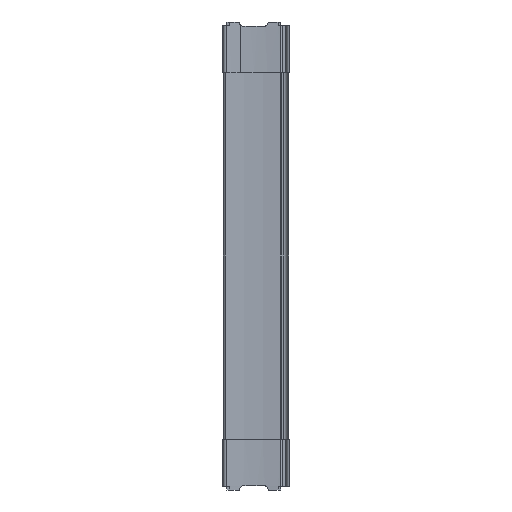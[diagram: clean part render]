
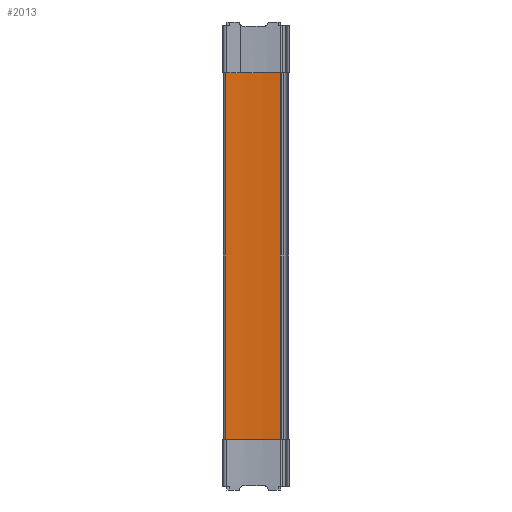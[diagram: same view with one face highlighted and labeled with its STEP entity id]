
A CAD part, left-side view. The second image highlights one B-rep face of the part: STEP entity #2013.
In plain terms, the highlighted cylindrical face has radius 250 mm (diameter 500 mm), a partial arc.
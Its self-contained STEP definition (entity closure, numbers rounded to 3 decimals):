
#373 = CYLINDRICAL_SURFACE ( 'NONE', #3863, 250. ) ;
#376 = FACE_OUTER_BOUND ( 'NONE', #752, .T. ) ;
#568 = ORIENTED_EDGE ( 'NONE', *, *, #3772, .F. ) ;
#569 = ORIENTED_EDGE ( 'NONE', *, *, #3769, .F. ) ;
#570 = ORIENTED_EDGE ( 'NONE', *, *, #3668, .F. ) ;
#571 = ORIENTED_EDGE ( 'NONE', *, *, #3834, .T. ) ;
#752 = EDGE_LOOP ( 'NONE', ( #568, #569, #570, #571 ) ) ;
#1212 = CARTESIAN_POINT ( 'NONE',  ( -255.319, 48.963, 185.3 ) ) ;
#1213 = DIRECTION ( 'NONE',  ( 0., 0., -1. ) ) ;
#1214 = DIRECTION ( 'NONE',  ( 1., 0., 0. ) ) ;
#1521 = CARTESIAN_POINT ( 'NONE',  ( -255.319, 48.963, -185.3 ) ) ;
#1522 = CARTESIAN_POINT ( 'NONE',  ( -8.643, 8.331, 191.3 ) ) ;
#1523 = DIRECTION ( 'NONE',  ( 0., 0., -1. ) ) ;
#1528 = DIRECTION ( 'NONE',  ( 0., 0., 1. ) ) ;
#1529 = DIRECTION ( 'NONE',  ( -1., 0., 0. ) ) ;
#1686 = CARTESIAN_POINT ( 'NONE',  ( -5.747, 63.571, 191.3 ) ) ;
#1694 = DIRECTION ( 'NONE',  ( 0., 0., -1. ) ) ;
#1908 = AXIS2_PLACEMENT_3D ( 'NONE', #1212, #1213, #1214 ) ;
#1944 = AXIS2_PLACEMENT_3D ( 'NONE', #1521, #1528, #1529 ) ;
#2013 = ADVANCED_FACE ( 'NONE', ( #376 ), #373, .F. ) ;
#2204 = VERTEX_POINT ( 'NONE', #2510 ) ;
#2242 = VERTEX_POINT ( 'NONE', #2503 ) ;
#2289 = CARTESIAN_POINT ( 'NONE',  ( -8.643, 8.331, -185.3 ) ) ;
#2352 = CARTESIAN_POINT ( 'NONE',  ( -8.643, 8.331, 185.3 ) ) ;
#2503 = CARTESIAN_POINT ( 'NONE',  ( -5.747, 63.571, 185.3 ) ) ;
#2510 = CARTESIAN_POINT ( 'NONE',  ( -5.747, 63.571, -185.3 ) ) ;
#2699 = VERTEX_POINT ( 'NONE', #2352 ) ;
#2861 = VERTEX_POINT ( 'NONE', #2289 ) ;
#3051 = CARTESIAN_POINT ( 'NONE',  ( -255.319, 48.963, 191.3 ) ) ;
#3052 = DIRECTION ( 'NONE',  ( 0., 0., -1. ) ) ;
#3053 = DIRECTION ( 'NONE',  ( -1., 0., 0. ) ) ;
#3668 = EDGE_CURVE ( 'NONE', #2242, #2699, #4204, .T. ) ;
#3769 = EDGE_CURVE ( 'NONE', #2699, #2861, #4021, .T. ) ;
#3772 = EDGE_CURVE ( 'NONE', #2861, #2204, #4005, .T. ) ;
#3834 = EDGE_CURVE ( 'NONE', #2242, #2204, #3911, .T. ) ;
#3863 = AXIS2_PLACEMENT_3D ( 'NONE', #3051, #3052, #3053 ) ;
#3909 = VECTOR ( 'NONE', #1694, 1000. ) ;
#3911 = LINE ( 'NONE', #1686, #3909 ) ;
#4005 = CIRCLE ( 'NONE', #1944, 250. ) ;
#4018 = VECTOR ( 'NONE', #1523, 1000. ) ;
#4021 = LINE ( 'NONE', #1522, #4018 ) ;
#4204 = CIRCLE ( 'NONE', #1908, 250. ) ;
